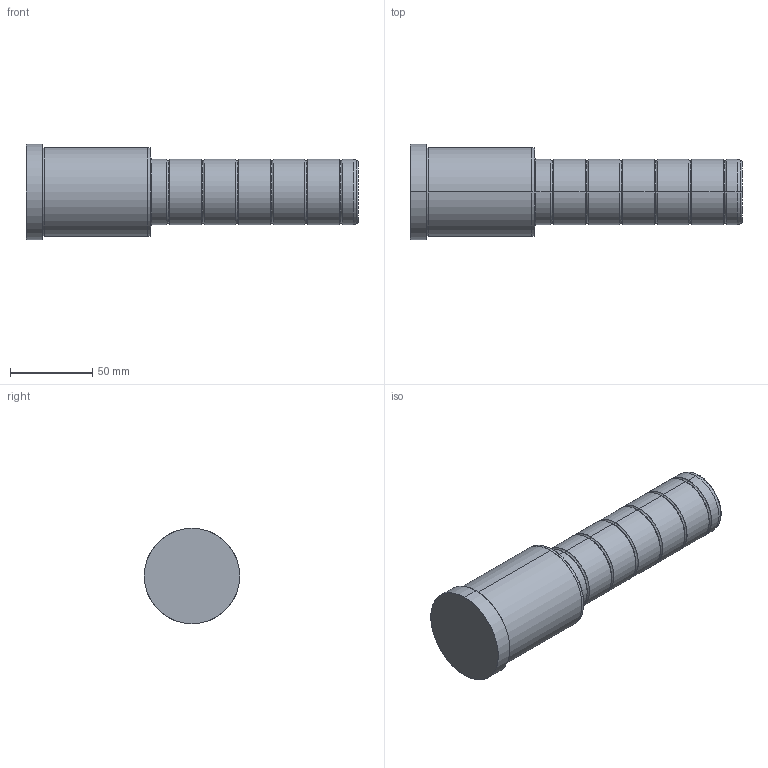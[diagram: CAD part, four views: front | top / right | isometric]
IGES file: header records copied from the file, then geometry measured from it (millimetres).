
Start section: SolidWorks IGES file using analytic representation for surfaces
Global section: file name: C:\Documents and Settings\kalite-mail\Desktop\IGS\D02\40\D02 - 40x76x126.IGS; native system: SolidWorks 2008; preprocessor: SolidWorks 2008; author: kalite-mail; date: 080617.100935; units: millimetre
Bounding box: 202 x 58 x 58 mm (x, y, z)
Surface area: 34731.3 mm2 (no closed solid volume)
Topology: 0 solids, 0 shells, 60 faces, 856 edges, 856 vertices
Faces by surface type: bspline 34, revolution 26
